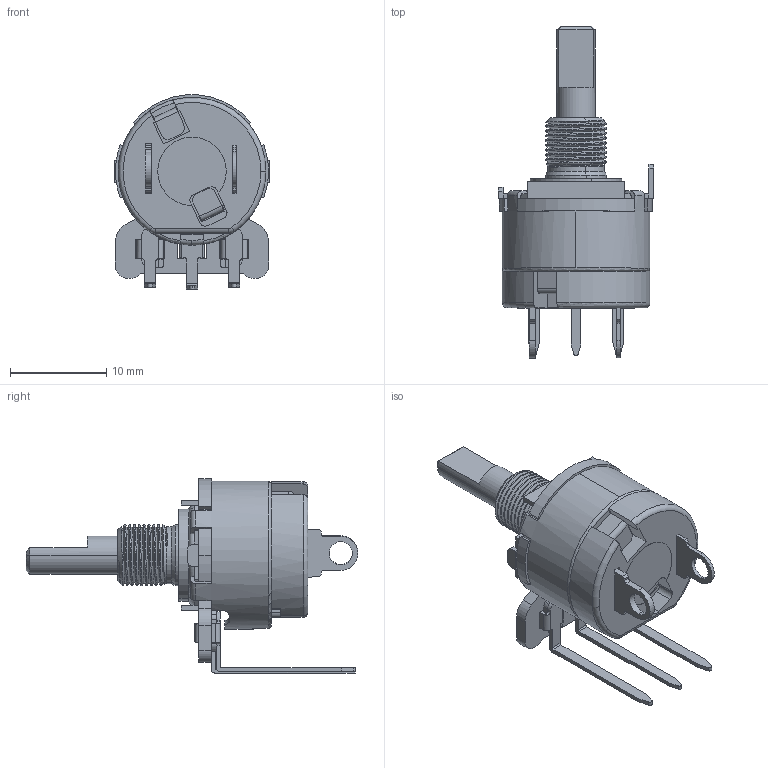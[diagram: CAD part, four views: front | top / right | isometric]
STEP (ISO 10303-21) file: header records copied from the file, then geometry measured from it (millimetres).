
FILE_DESCRIPTION (( 'STEP AP214' ), '1' );
FILE_NAME ('270V220F103B1B1.STEP', '2019-05-24T08:17:31', ( '' ), ( '' ), 'SwSTEP 2.0', 'SolidWorks 2019', '' );
FILE_SCHEMA (( 'AUTOMOTIVE_DESIGN' ));
Length unit declared in the file: millimetre
Products named in the file (13): 057-18-060-18-12; 270A-B-2244; 057-18-46-18-12; 270V220F103B1B1; 270-07-014-01-53; 270-18-025-01-37(for 270-95-T01); 270S-BF-11382-20; 270-40-057-02-53; 270-95-T01; 270-13-116-06-12(for 270-95-T01); 270 element; 057-01-T11-34-01; 270-01-125-30-01G
Assembly tree (12 placements, depth 3):
  270V220F103B1B1
    270-40-057-02-53
    057-01-T11-34-01
    057-18-060-18-12
    057-18-46-18-12
    270-07-014-01-53
    270-95-T01
      270-01-125-30-01G
      270 element
      270-13-116-06-12(for 270-95-T01)
      270-18-025-01-37(for 270-95-T01)
    270A-B-2244
    270S-BF-11382-20
Bounding box: 16.16 x 34.49 x 20.16 mm (x, y, z)
Volume: 1612.9 mm3; surface area: 4156.6 mm2
Topology: 12 solids, 12 shells, 842 faces, 2333 edges, 1512 vertices
Faces by surface type: plane 494, cylinder 290, torus 25, cone 23, bspline 8, sphere 2
Entity records: 28617 total; most frequent: CARTESIAN_POINT 6254, ORIENTED_EDGE 4658, DIRECTION 4545, EDGE_CURVE 2329, AXIS2_PLACEMENT_3D 1523, VERTEX_POINT 1510, VECTOR 1499, LINE 1499
